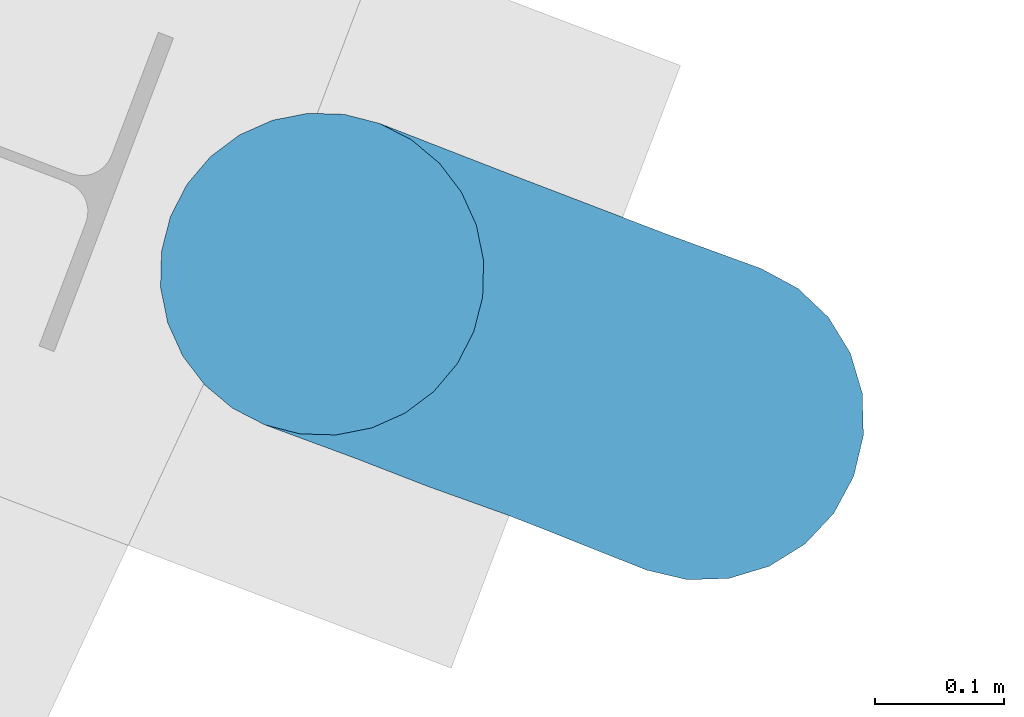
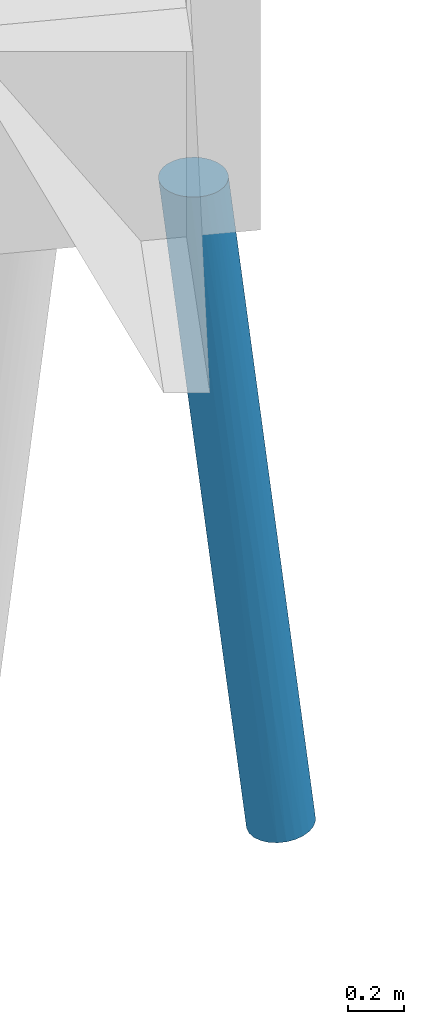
# One storey, part 22 of 46: 1 pile.
"""IFC2X3 building model written with IfcOpenShell, lengths in millimetres."""

from ifc_helpers import new_model, entity, si_unit, converted_unit, derived_unit, direction, frame, origin, place, context, subcontext, project, spatial, faceted_brep, source, transform, mapped, material, type_object, type_shapes, element, save


model = new_model("IFC2X3")

# Units and contexts
model_context = context("Model", 3, precision=0.01, world=origin(), true_north=direction((6.123233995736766e-17, 1.0)))
body_context = subcontext(model_context, "Body", "Model", "MODEL_VIEW")
ifc_project = project(units=[si_unit("LENGTHUNIT", "METRE", prefix="MILLI"), converted_unit("PLANEANGLEUNIT", "DEGREE", entity("IfcPlaneAngleMeasure", 0.017453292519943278), si_unit("PLANEANGLEUNIT", "RADIAN"), dimensions=[0, 0, 0, 0, 0, 0, 0]), si_unit("AREAUNIT", "SQUARE_METRE"), derived_unit("THERMALTRANSMITTANCEUNIT", [(si_unit("MASSUNIT", "GRAM", prefix="KILO"), 1), (si_unit("THERMODYNAMICTEMPERATUREUNIT", "KELVIN"), -1), (si_unit("TIMEUNIT", "SECOND"), -3)])], contexts=[model_context])

# Site, building, storey
site_placement = place(None, frame((-72937.88054949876, 11621.45624098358, 0.0), z_axis=(0.0, 0.0, 1.0), x_axis=(0.9346418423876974, -0.35559053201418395, 0.0)))
site = spatial("IfcSite", under=ifc_project, at=site_placement, Name="Default", CompositionType="ELEMENT")
building_placement = place(site_placement, origin())
building = spatial("IfcBuilding", under=site, at=building_placement, CompositionType="ELEMENT")
storey_placement = place(building_placement, origin())
storey = spatial("IfcBuildingStorey", under=building, at=storey_placement, Name="00 begane grond", CompositionType="ELEMENT", Elevation=0.0)

# Pile
ifc_material = material(Name="beton_gewapend_prefab-element_c45/55")
type_product = type_object("IfcTypeProduct", Name="Type 01", material=ifc_material)
shared_shape = source(origin(), body_context, "Body", "Brep", [
    faceted_brep([(72.36643070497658, 41.239861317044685, -1587.2480771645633), (115.53639022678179, 54.2354673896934, -1150.0), (124.838162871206, 27.815116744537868, -1150.0), (-182.0787577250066, 65.1457063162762, -1842.6627389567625), (-165.1894529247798, 41.33003827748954, -1588.4448595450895), (-111.09194578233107, 54.23546738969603, -1150.0), (15.031797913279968, 88.27496307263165, -1836.1297740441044), (32.98344934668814, 64.94314047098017, -1840.3127773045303), (-30.14575159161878, 64.60051474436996, -2410.3553271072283), (41.77006032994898, 0.0, -1925.992599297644), (80.6380595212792, 97.7289353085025, -1150.0), (100.55257203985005, 77.9362252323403, -1150.0), (-175.6519081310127, 115.48494156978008, -3184.035406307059), (-108.17343100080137, 106.74566752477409, -2732.5343267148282), (-180.54618184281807, 99.16916754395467, -3483.986786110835), (30.20851053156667, 121.8659890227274, -1150.0), (56.79144948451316, 112.62110848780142, -1150.0), (-42.91884640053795, 117.90464735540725, -1932.2038124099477), (-120.39371842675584, 27.81511674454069, -1150.0), (-245.70385641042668, 64.88368548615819, -2413.8437241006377), (-162.25875578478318, 88.50075404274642, -1830.9574517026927), (-242.98263969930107, 88.62069146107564, -2558.5627355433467), (-151.93048965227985, 53.33845094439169, -3561.073967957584), (-133.56769714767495, 28.49629953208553, -3474.2266886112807), (-194.4421984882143, 32.35238063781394, -4013.333582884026), (12.222467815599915, 106.275938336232, -1655.8961403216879), (-73.06982999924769, 124.27812918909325, -1949.1011896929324), (-80.64748703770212, 124.23668125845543, -1770.9263967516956), (-23.427620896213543, 124.20079095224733, -1508.6429901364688), (-240.21076201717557, 123.93060767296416, -3479.642475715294), (-314.4444444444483, 125.0, -4000.0), (-265.024992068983, 123.93060767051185, -3407.479310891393), (-117.33081280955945, 0.0, -3357.900457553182), (-190.20897761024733, 0.0, -4013.803940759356), (2.2222222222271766, 125.0, -1150.0), (-25.764066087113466, 121.86598902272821, -1150.0), (-326.96702366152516, 47.83542903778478, -3066.942589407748), (-375.2689438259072, 28.366113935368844, -3445.0277270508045), (-317.9689709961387, 23.60182842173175, -2920.157783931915), (-73.70805836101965, 23.187811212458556, -2945.6497765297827), (-39.92708990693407, 41.47720200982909, -2597.136214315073), (16.085837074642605, 41.18767244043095, -2093.938466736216), (-196.28435151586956, 123.47165352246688, -2760.095105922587), (-183.665203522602, 123.01104339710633, -3024.1067526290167), (-226.59670338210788, 88.38834764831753, -4009.7608601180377), (-252.3267110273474, 108.25317547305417, -4006.901970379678), (-148.27550792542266, 76.09517863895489, -3402.494577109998), (-206.8533741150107, 62.49999999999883, -4011.9545633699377), (-52.347005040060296, 112.62110848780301, -1150.0), (-99.40312932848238, 118.21391771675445, -1696.7443345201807), (-119.74622127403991, 106.37235269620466, -1653.229951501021), (-185.92128902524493, 102.46025049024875, -2194.904710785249), (-238.2779479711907, 106.2597512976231, -2718.3665211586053), (-42.820885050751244, 102.58547775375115, -2202.1491422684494), (-156.2252162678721, 118.09364807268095, -2204.9892079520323), (-319.0271104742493, 115.48494156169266, -3608.075760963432), (-264.72929865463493, 115.48494155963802, -3119.3954545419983), (-96.10812759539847, 77.93622523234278, -1150.0), (-76.19361507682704, 97.72893530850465, -1150.0), (-1.3402226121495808, 0.0, -2313.985145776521), (-44.451993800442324, 0.0, -2701.9910864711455), (-292.6922084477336, 91.63383624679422, -3034.349570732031), (-292.9202820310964, 72.79893776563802, -2886.1326580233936), (-227.31882224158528, 115.48494156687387, -3649.0376333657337), (-282.2899395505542, 120.74072828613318, -4003.5727227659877), (-221.60043037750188, 41.38232604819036, -2096.309657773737), (-209.76851175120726, 0.0, -1925.9934634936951), (-346.59894933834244, 120.74072828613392, -3996.4272772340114), (-376.56217786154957, 108.25317547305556, -3993.0980296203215), (-66.21715172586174, 88.15377228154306, -2568.4634430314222), (-129.97696806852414, 118.32629651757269, -2704.701988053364), (-123.5470158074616, 0.0, -1150.0), (-345.703852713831, 76.09517862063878, -3383.3196685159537), (-377.5274465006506, 52.979842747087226, -3542.5215927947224), (-275.88856858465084, 42.22399193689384, -2587.6075033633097), (-402.29218550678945, 88.38834764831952, -3990.239139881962), (-422.0355147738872, 62.50000000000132, -3988.0454366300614), (-331.8470727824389, 99.16916753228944, -3467.5525053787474), (-132.44344591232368, 124.68323586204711, -2281.458802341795), (-89.11715414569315, 71.65077909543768, -2899.5648185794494), (-96.52658231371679, 47.8354290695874, -3084.4998642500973), (127.99146025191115, 0.0, -1150.0), (-252.87925972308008, 0.0, -2313.9901952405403), (-122.93481462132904, 90.89446365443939, -3053.447507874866), (-438.679911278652, 0.0, -3986.1960592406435), (-434.4466904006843, 32.352380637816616, -3986.6664171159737), (-141.73877836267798, 124.16072599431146, -2576.5969257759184), (-210.06991733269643, 117.23436667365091, -2667.881922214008), (-367.33495948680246, 0.0, -3344.091493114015), (-295.9900076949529, 0.0, -2701.9869269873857), (-120.39371842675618, -27.815116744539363, -1150.0), (-111.09194578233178, -54.23546738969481, -1150.0), (-96.10812759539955, -77.93622523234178, -1150.0), (-76.1936150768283, -97.72893530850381, -1150.0), (-52.34700504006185, -112.62110848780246, -1150.0), (-25.76406608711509, -121.86598902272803, -1150.0), (2.222222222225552, -125.0, -1150.0), (30.20851053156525, -121.86598902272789, -1150.0), (56.79144948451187, -112.62110848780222, -1150.0), (80.63805952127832, -97.7289353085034, -1150.0), (100.55257203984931, -77.93622523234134, -1150.0), (115.53639022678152, -54.23546738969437, -1150.0), (124.83816287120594, -27.815116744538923, -1150.0), (-151.9304895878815, -53.338451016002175, -3561.073967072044), (-133.5676976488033, -28.496299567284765, -3474.2266930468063), (-96.52658225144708, -47.83542901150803, -3084.4998639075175), (-140.32328536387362, -105.94191584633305, -1832.1538289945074), (-126.78568187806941, -88.44799753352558, -1511.2211246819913), (-176.7825211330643, -87.58614607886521, -1953.453255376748), (-185.53475823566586, -41.3488976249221, -1771.6124540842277), (-98.5233768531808, -124.24251446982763, -1932.2861052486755), (-221.49211536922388, -66.66107193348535, -2205.8974607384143), (-159.3540506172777, -67.83984168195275, -1653.46778938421), (-312.10423006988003, -99.16916769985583, -3289.866922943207), (-352.8086337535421, -76.09517892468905, -3447.262699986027), (-402.2921855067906, -88.38834764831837, -3990.239139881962), (-235.41358059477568, -123.93060766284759, -3436.4678436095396), (-314.44444444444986, -125.0, -4000.0), (-282.2899395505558, -120.74072828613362, -4003.5727227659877), (-384.2243809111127, -47.83542945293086, -3582.258806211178), (-328.2998352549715, -47.83542988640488, -3078.9378969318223), (-362.94366171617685, -26.27355326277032, -3329.855963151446), (-376.562177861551, -108.25317547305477, -3993.0980296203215), (-226.59670338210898, -88.38834764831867, -4009.7608601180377), (-148.27550783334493, -76.0951785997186, -3402.49457655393), (-180.54618171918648, -99.16916751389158, -3483.9867853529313), (-104.92272192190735, -118.27912572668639, -1748.1433712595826), (-163.52036571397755, -118.46525212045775, -2280.4898650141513), (-39.927089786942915, -41.4772017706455, -2597.1362139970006), (-89.11715398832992, -71.6507788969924, -2899.5648184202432), (-221.11735801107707, -106.04994682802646, -2560.8655013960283), (-274.28881423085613, -82.15433137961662, -2785.484682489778), (-434.4466904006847, -32.35238063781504, -3986.6664171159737), (-422.03551477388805, -62.49999999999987, -3988.0454366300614), (-129.97696798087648, -118.32629644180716, -2704.7019892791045), (-141.73877802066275, -124.16072595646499, -2576.596925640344), (-180.90977316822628, -122.95522291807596, -3002.087637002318), (-232.56829871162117, -117.68101498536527, -2881.4778788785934), (-242.59310629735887, -123.930607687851, -3205.592340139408), (-180.2811496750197, -124.04234815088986, -2652.6852150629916), (-346.598949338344, -120.7407282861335, -3996.4272772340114), (-301.7888662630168, -115.48494161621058, -3452.931564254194), (-206.85337411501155, -62.50000000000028, -4011.9545633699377), (-29.559553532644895, -124.19873841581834, -1563.993853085), (-83.4987298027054, -124.18127902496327, -2050.828488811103), (-42.91884618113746, -117.90464729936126, -1932.2038118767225), (-30.14575143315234, -64.60051457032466, -2410.3553266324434), (32.983449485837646, -64.94314037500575, -1840.3127765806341), (15.03179802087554, -88.27496298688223, -1836.1297738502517), (12.222467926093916, -106.27593827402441, -1655.89614023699), (-42.820884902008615, -102.58547764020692, -2202.149142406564), (-73.70805863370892, -23.18781108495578, -2945.6497792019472), (72.36643080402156, -41.2398612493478, -1587.2480764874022), (16.08583725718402, -41.18767230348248, -2093.9384655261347), (-221.94118502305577, -91.78881553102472, -2399.105716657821), (-122.93481449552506, -90.89446347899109, -3053.447508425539), (-66.2171515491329, -88.15377212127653, -2568.463442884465), (-108.173430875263, -106.74566744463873, -2732.534326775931), (-262.27997921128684, -34.77836369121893, -2443.29023072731), (-252.32671102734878, -108.25317547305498, -4006.901970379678), (-227.31882233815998, -115.48494155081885, -3649.0376345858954), (-277.036285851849, -61.03344887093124, -2675.5040755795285), (-194.44219848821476, -32.35238063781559, -4013.333582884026), (-312.1095376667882, -26.52940126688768, -2872.8494770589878), (-175.65190824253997, -115.48494153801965, -3184.0354080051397)], [[[0, 1, 2]], [[3, 4, 5]], [[6, 7, 8]], [[0, 2, 9]], [[10, 11, 6]], [[12, 13, 14]], [[15, 16, 17]], [[18, 5, 4]], [[19, 20, 21]], [[22, 23, 24]], [[25, 16, 10]], [[26, 27, 28]], [[29, 30, 31]], [[23, 32, 33]], [[7, 6, 11]], [[34, 27, 35]], [[36, 37, 38]], [[23, 39, 32]], [[40, 8, 41]], [[31, 42, 43]], [[14, 44, 45]], [[19, 3, 20]], [[34, 15, 28]], [[46, 47, 44]], [[48, 49, 50]], [[51, 52, 21]], [[17, 25, 53]], [[46, 22, 47]], [[49, 54, 50]], [[31, 55, 56]], [[20, 57, 58]], [[41, 9, 59, 60]], [[21, 61, 62]], [[41, 7, 0]], [[63, 45, 64]], [[4, 65, 66]], [[57, 3, 5]], [[50, 51, 20]], [[55, 67, 68]], [[56, 42, 31]], [[13, 53, 69]], [[12, 70, 13]], [[66, 71, 18]], [[36, 72, 73]], [[31, 30, 67]], [[36, 38, 74]], [[21, 52, 61]], [[74, 62, 36]], [[36, 73, 37]], [[72, 75, 76]], [[72, 77, 75]], [[50, 20, 58]], [[46, 44, 14]], [[7, 41, 8]], [[42, 54, 78]], [[26, 78, 27]], [[79, 40, 80]], [[9, 2, 81]], [[82, 66, 65]], [[60, 39, 40]], [[83, 14, 13]], [[77, 68, 75]], [[84, 37, 85]], [[21, 62, 19]], [[29, 64, 30]], [[31, 43, 29]], [[83, 79, 46]], [[12, 14, 63]], [[68, 77, 55]], [[77, 61, 52]], [[64, 29, 63]], [[43, 70, 12]], [[7, 11, 1]], [[41, 0, 9]], [[1, 0, 7]], [[69, 6, 8]], [[69, 8, 79]], [[40, 79, 8]], [[18, 4, 66]], [[65, 4, 3]], [[19, 65, 3]], [[20, 3, 57]], [[65, 19, 74]], [[72, 36, 62]], [[86, 42, 78]], [[52, 87, 56]], [[69, 79, 83]], [[46, 79, 80]], [[13, 69, 83]], [[14, 83, 46]], [[6, 69, 53]], [[86, 17, 70]], [[6, 53, 25]], [[17, 53, 70]], [[6, 25, 10]], [[16, 25, 17]], [[80, 40, 39]], [[40, 41, 60]], [[80, 39, 23]], [[39, 60, 32]], [[80, 23, 22]], [[24, 23, 33]], [[80, 22, 46]], [[47, 22, 24]], [[74, 19, 62]], [[77, 72, 61]], [[62, 61, 72]], [[56, 77, 52]], [[42, 56, 87]], [[20, 51, 21]], [[51, 54, 52]], [[54, 49, 27]], [[51, 50, 54]], [[48, 50, 58]], [[53, 13, 70]], [[86, 70, 43]], [[86, 43, 42]], [[29, 43, 12]], [[67, 55, 31]], [[82, 65, 74]], [[38, 88, 89, 82]], [[88, 38, 37]], [[88, 37, 84]], [[76, 85, 73]], [[37, 73, 85]], [[76, 73, 72]], [[87, 54, 42]], [[87, 52, 54]], [[82, 74, 38]], [[56, 55, 77]], [[17, 86, 26]], [[27, 78, 54]], [[78, 26, 86]], [[15, 17, 28]], [[34, 28, 27]], [[26, 28, 17]], [[45, 63, 14]], [[12, 63, 29]], [[49, 35, 27]], [[35, 49, 48]], [[48, 58, 57, 5, 18, 71, 90, 91, 92, 93, 94, 95, 96, 97, 98, 99, 100, 101, 102, 81, 2, 1, 11, 10, 16, 15, 34, 35]], [[103, 104, 105]], [[9, 81, 102]], [[106, 107, 108]], [[91, 90, 109]], [[96, 95, 110]], [[109, 111, 112]], [[113, 114, 115]], [[116, 117, 118]], [[93, 106, 94]], [[119, 120, 121]], [[122, 113, 115]], [[112, 111, 108]], [[123, 124, 125]], [[126, 127, 110]], [[88, 84, 121]], [[90, 71, 66]], [[128, 129, 105]], [[130, 131, 113]], [[127, 126, 106]], [[119, 132, 133]], [[134, 135, 136]], [[137, 138, 139]], [[122, 140, 141]], [[124, 123, 142]], [[143, 144, 145]], [[146, 147, 148]], [[149, 150, 148]], [[114, 113, 131]], [[105, 104, 151]], [[144, 134, 145]], [[152, 153, 9]], [[113, 122, 141]], [[98, 97, 145]], [[126, 95, 94]], [[99, 148, 100]], [[137, 141, 138]], [[154, 131, 130]], [[105, 151, 128]], [[138, 140, 117]], [[138, 117, 116]], [[155, 156, 157]], [[143, 97, 96]], [[66, 158, 109]], [[159, 160, 118]], [[134, 150, 145]], [[102, 101, 152]], [[105, 124, 103]], [[109, 158, 111]], [[156, 146, 148]], [[91, 112, 92]], [[156, 155, 129]], [[101, 100, 147]], [[147, 152, 101]], [[148, 99, 149]], [[150, 157, 156]], [[111, 158, 161]], [[109, 90, 66]], [[114, 133, 115]], [[113, 141, 137]], [[125, 159, 123]], [[59, 9, 153]], [[33, 104, 162]], [[156, 129, 146]], [[136, 139, 138]], [[120, 158, 163]], [[164, 116, 160]], [[133, 114, 119]], [[111, 161, 131]], [[120, 114, 161]], [[154, 108, 111]], [[130, 113, 137]], [[141, 140, 138]], [[121, 120, 163]], [[158, 66, 82, 89]], [[159, 125, 160]], [[125, 155, 157]], [[102, 152, 9]], [[153, 152, 147]], [[146, 153, 147]], [[148, 147, 100]], [[153, 146, 128]], [[124, 105, 129]], [[137, 127, 130]], [[139, 136, 135]], [[130, 127, 106]], [[139, 144, 110]], [[139, 127, 137]], [[127, 139, 110]], [[128, 146, 129]], [[125, 124, 155]], [[129, 155, 124]], [[164, 125, 157]], [[164, 157, 134]], [[148, 150, 156]], [[157, 150, 134]], [[98, 145, 149]], [[150, 149, 145]], [[98, 149, 99]], [[109, 112, 91]], [[59, 153, 128]], [[151, 32, 60]], [[32, 151, 104]], [[32, 104, 33]], [[142, 162, 103]], [[104, 103, 162]], [[142, 103, 124]], [[106, 126, 94]], [[126, 110, 95]], [[116, 164, 136]], [[144, 135, 134]], [[134, 136, 164]], [[116, 136, 138]], [[121, 84, 132]], [[120, 119, 114]], [[119, 121, 132]], [[89, 88, 163]], [[121, 163, 88]], [[163, 158, 89]], [[128, 151, 60]], [[128, 60, 59]], [[107, 93, 92]], [[107, 92, 112]], [[130, 106, 154]], [[93, 107, 106]], [[108, 107, 112]], [[135, 144, 139]], [[96, 110, 143]], [[97, 143, 145]], [[144, 143, 110]], [[118, 160, 116]], [[164, 160, 125]], [[131, 161, 114]], [[120, 161, 158]], [[131, 154, 111]], [[108, 154, 106]], [[115, 133, 132, 84, 85, 76, 75, 68, 67, 30, 64, 45, 44, 47, 24, 33, 162, 142, 123, 159, 118, 117, 140, 122]]]),
])
type_shapes(type_product, [shared_shape])
pile_placement = place(storey_placement, frame((67330.00015558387, 21880.0, 0.0), z_axis=(0.0, 0.0, 1.0), x_axis=(-1.0, 0.0, 0.0)))
element("IfcPile", 1, at=pile_placement, inside=storey, type_object=type_product, material=ifc_material, Name="17.21_Prefab funderingspaal rond", ObjectType="prefab paal rond", PredefinedType="NOTDEFINED", context=body_context, shape_type="MappedRepresentation", body=[
    mapped(shared_shape, transform((0.0, 0.0, 0.0), scale=1.0)),
])

save(model, "model.ifc")
